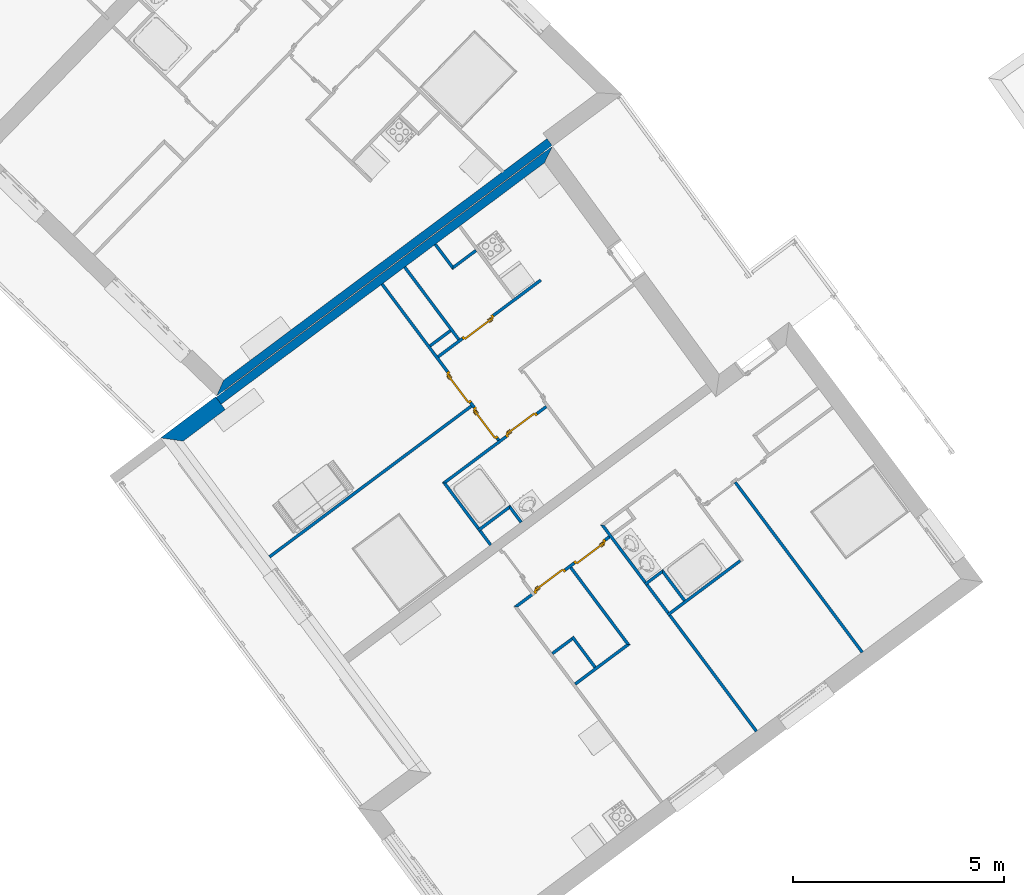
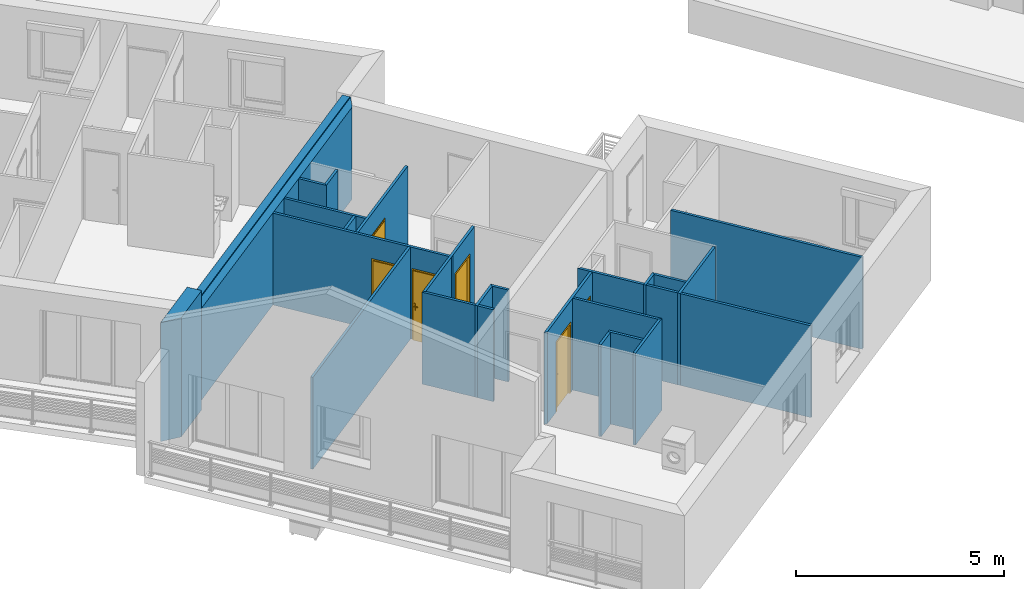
# One storey, part 6 of 121: 24 walls, 6 doors, 6 openings.
"""IFC2X3 building model written with IfcOpenShell, lengths in metres."""

from ifc_helpers import new_model, entity, si_unit, converted_unit, derived_unit, money_unit, direction, frame, origin_with_axes, origin_2d_with_axis, place, context, subcontext, project, spatial, polyline, rectangle, outline, extrude, faceted_brep, source, transform, mapped, material, layer, layer_set, layer_usage, type_object, element, fill, save


model = new_model("IFC2X3")

# Units and contexts
model_context = context("Model", 3, precision=1e-05, world=origin_with_axes(), true_north=direction((0.0, 1.0)))
body_context = subcontext(model_context, "Body", "Model", "MODEL_VIEW")
ifc_project = project(units=[si_unit("LENGTHUNIT", "METRE"), si_unit("AREAUNIT", "SQUARE_METRE"), si_unit("VOLUMEUNIT", "CUBIC_METRE"), converted_unit("PLANEANGLEUNIT", "DEGREE", entity("IfcPlaneAngleMeasure", 0.0174532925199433), si_unit("PLANEANGLEUNIT", "RADIAN"), dimensions=[0, 0, 0, 0, 0, 0, 0]), money_unit("CHF"), converted_unit("TIMEUNIT", "Year", entity("IfcTimeMeasure", 31557600.0), si_unit("TIMEUNIT", "SECOND"), dimensions=[0, 0, 1, 0, 0, 0, 0]), si_unit("MASSUNIT", "GRAM", prefix="KILO"), si_unit("THERMODYNAMICTEMPERATUREUNIT", "DEGREE_CELSIUS"), si_unit("LUMINOUSINTENSITYUNIT", "LUMEN"), si_unit("ENERGYUNIT", "JOULE", prefix="MEGA"), derived_unit("THERMALCONDUCTANCEUNIT", [(si_unit("POWERUNIT", "WATT"), 1), (si_unit("LENGTHUNIT", "METRE"), -1), (si_unit("THERMODYNAMICTEMPERATUREUNIT", "KELVIN"), -1)]), derived_unit("SPECIFICHEATCAPACITYUNIT", [(si_unit("ENERGYUNIT", "JOULE"), 1), (si_unit("MASSUNIT", "GRAM", prefix="KILO"), -1), (si_unit("THERMODYNAMICTEMPERATUREUNIT", "KELVIN"), -1)]), derived_unit("MASSDENSITYUNIT", [(si_unit("MASSUNIT", "GRAM", prefix="KILO"), 1), (si_unit("VOLUMEUNIT", "CUBIC_METRE"), -1)])], contexts=[model_context])

# Site, building, storey
site_placement = place(None, origin_with_axes())
site = spatial("IfcSite", under=ifc_project, at=site_placement, Name="Site", CompositionType="ELEMENT")
building_placement = place(site_placement, origin_with_axes())
building = spatial("IfcBuilding", under=site, at=building_placement, Name="Bâtiment", CompositionType="ELEMENT")
storey_placement = place(building_placement, frame((0.0, 0.0, 2.75), z_axis=(0.0, 0.0, 1.0), x_axis=(1.0, 0.0, 0.0)))
storey = spatial("IfcBuildingStorey", under=building, at=storey_placement, Name="Etage 1", CompositionType="ELEMENT", Elevation=2.75)

# Wall, opening, door
ifc_material_1 = material(Name="Hachure solide 268963992")
ifc_layer_1 = layer(ifc_material_1, 0.07, ventilated="UNKNOWN")
ifc_layer_set_1 = layer_set([ifc_layer_1], Name="Cloison 70 0826278243")
ifc_layer_usage_1 = layer_usage(ifc_layer_set_1, "AXIS2", "NEGATIVE", 0.0)
wall_type_1 = type_object("IfcWallType", Name="Cloison 70 0826278243 70", PredefinedType="NOTDEFINED")
wall_1_placement = place(storey_placement, frame((9537.252719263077, -1072.918663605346, 57.7), z_axis=(0.0, 0.0, 1.0), x_axis=(-0.8011628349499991, -0.5984464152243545, 0.0)))
wall_1 = element("IfcWallStandardCase", 1, at=wall_1_placement, inside=storey, type_object=wall_type_1, material=ifc_layer_usage_1, Name="Mur-149", context=body_context, shape_type="SweptSolid", body=[
    extrude(outline(polyline([(0.0, -0.07000000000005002), (3.027910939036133, -0.07000000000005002), (3.027910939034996, 0.0), (0.0, 0.0), (0.0, -0.07000000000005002)])), origin_with_axes(), (0.0, 0.0, 1.0), 2.7),
])
opening_1_placement = place(wall_1_placement, frame((1.855514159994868, 0.0, 0.0), z_axis=(0.0, 0.0, 1.0), x_axis=(1.0, 0.0, 0.0)))
opening_1 = element("IfcOpeningElement", 2, at=opening_1_placement, cuts=wall_1, Name="Por-309", context=body_context, shape_type="SweptSolid", body=[
    extrude(rectangle(XDim=0.9099999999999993, YDim=2.079999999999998, at=origin_2d_with_axis()), frame((0.0, -0.06999999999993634, 1.039999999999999), z_axis=(0.0, 1.0, 0.0), x_axis=(1.0, 0.0, 0.0)), (0.0, 0.0, 1.0), 0.14),
])
door_style = type_object("IfcDoorStyle", Name="Porte_1v", ConstructionType="NOTDEFINED", OperationType="NOTDEFINED", ParameterTakesPrecedence=False, Sizeable=False)
shared_shape_1 = source(origin_with_axes(), body_context, "Body", "Brep", [
    faceted_brep([(0.455, 0.0, 0.0), (0.415, 0.0, 0.0), (0.415, 0.0, 2.04), (-0.415, 0.0, 2.04), (-0.415, 0.0, 0.0), (-0.455, 0.0, 0.0), (-0.455, 0.0, 2.08), (0.455, 0.0, 2.08), (0.455, -0.07, 0.0), (0.4, -0.07, 0.0), (0.4, -0.015, 0.0), (0.415, -0.015, 0.0), (0.415, -0.015, 2.04), (-0.415, -0.015, 2.04), (-0.415, -0.015, 0.0), (-0.4, -0.015, 0.0), (-0.4, -0.07, 0.0), (-0.455, -0.07, 0.0), (-0.455, -0.07, 2.08), (0.455, -0.07, 2.08), (-0.4, -0.07, 2.025), (0.4, -0.07, 2.025), (0.4, -0.015, 2.025), (-0.4, -0.015, 2.025)], [[[0, 1, 2, 3, 4, 5, 6, 7]], [[0, 8, 9, 10, 11, 1]], [[1, 11, 12, 2]], [[2, 12, 13, 3]], [[3, 13, 14, 4]], [[5, 4, 14, 15, 16, 17]], [[18, 6, 5, 17]], [[19, 7, 6, 18]], [[8, 0, 7, 19]], [[9, 8, 19, 18, 17, 16, 20, 21]], [[10, 9, 21, 22]], [[11, 10, 22, 23, 15, 14, 13, 12]], [[23, 20, 16, 15]], [[22, 21, 20, 23]]]),
    faceted_brep([(-0.35, -0.015, 0.9), (-0.39, -0.015, 0.9), (-0.39, -0.015, 1.1), (-0.35, -0.015, 1.1), (-0.35, -0.025, 0.9), (-0.39, -0.025, 0.9), (-0.39, -0.025, 1.1), (-0.35, -0.025, 1.1)], [[[0, 1, 2, 3]], [[1, 0, 4, 5]], [[2, 1, 5, 6]], [[3, 2, 6, 7]], [[0, 3, 7, 4]], [[5, 4, 7, 6]]]),
    faceted_brep([(-0.28, -0.025, 1.0), (-0.38, -0.025, 1.0), (-0.38, -0.025, 1.02), (-0.28, -0.025, 1.02), (-0.28, -0.045, 1.0), (-0.38, -0.045, 1.0), (-0.38, -0.045, 1.02), (-0.28, -0.045, 1.02)], [[[0, 1, 2, 3]], [[1, 0, 4, 5]], [[2, 1, 5, 6]], [[3, 2, 6, 7]], [[0, 3, 7, 4]], [[5, 4, 7, 6]]]),
    faceted_brep([(-0.35, 0.035, 0.9), (-0.39, 0.035, 0.9), (-0.39, 0.035, 1.1), (-0.35, 0.035, 1.1), (-0.35, 0.025, 0.9), (-0.39, 0.025, 0.9), (-0.39, 0.025, 1.1), (-0.35, 0.025, 1.1)], [[[0, 1, 2, 3]], [[1, 0, 4, 5]], [[2, 1, 5, 6]], [[3, 2, 6, 7]], [[0, 3, 7, 4]], [[5, 4, 7, 6]]]),
    faceted_brep([(-0.28, 0.05500000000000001, 1.0), (-0.38, 0.05500000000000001, 1.0), (-0.38, 0.05500000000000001, 1.02), (-0.28, 0.05500000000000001, 1.02), (-0.28, 0.035, 1.0), (-0.38, 0.035, 1.0), (-0.38, 0.035, 1.02), (-0.28, 0.035, 1.02)], [[[0, 1, 2, 3]], [[1, 0, 4, 5]], [[2, 1, 5, 6]], [[3, 2, 6, 7]], [[0, 3, 7, 4]], [[5, 4, 7, 6]]]),
    faceted_brep([(-0.415, 0.025, 0.0), (0.415, 0.025, 0.0), (0.415, -0.015, 0.0), (-0.415, -0.015, 0.0), (-0.415, 0.025, 2.04), (0.415, 0.025, 2.04), (0.415, -0.015, 2.04), (-0.415, -0.015, 2.04)], [[[0, 1, 2, 3]], [[0, 4, 5, 1]], [[1, 5, 6, 2]], [[3, 2, 6, 7]], [[4, 0, 3, 7]], [[5, 4, 7, 6]]]),
])
door_1_placement = place(opening_1_placement, frame((-0.4150000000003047, 0.0, 0.0), z_axis=(0.0, 0.0, 1.0), x_axis=(1.0, 0.0, 0.0)))
door_1 = element("IfcDoor", 3, at=door_1_placement, inside=storey, type_object=door_style, Name="Por-309", OverallHeight=2.04, OverallWidth=0.83, context=body_context, shape_type="MappedRepresentation", body=[
    mapped(shared_shape_1, transform((0.4149999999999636, 0.0, 0.0))),
])
fill(opening_1, door_1)

# Wall
ifc_layer_usage_2 = layer_usage(ifc_layer_set_1, "AXIS2", "NEGATIVE", 0.0)
wall_2_placement = place(storey_placement, frame((9534.76554951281, -1072.023628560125, 57.7), z_axis=(0.0, 0.0, 1.0), x_axis=(0.5984471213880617, -0.8011623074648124, 0.0)))
element("IfcWallStandardCase", 4, at=wall_2_placement, inside=storey, type_object=wall_type_1, material=ifc_layer_usage_2, Name="Mur-149", context=body_context, shape_type="SweptSolid", body=[
    extrude(outline(polyline([(0.0, -0.06999999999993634), (0.7279079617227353, -0.07000000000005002), (0.6579079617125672, 0.0), (0.0, 0.0), (0.0, -0.06999999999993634)])), origin_with_axes(), (0.0, 0.0, 1.0), 2.7),
])

# Wall, opening, door
ifc_layer_usage_3 = layer_usage(ifc_layer_set_1, "AXIS2", "NEGATIVE", 0.0)
wall_3_placement = place(storey_placement, frame((9537.439129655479, -1075.868428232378, 57.7), z_axis=(0.0, 0.0, 1.0), x_axis=(-0.8011628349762, -0.5984464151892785, 0.0)))
wall_3 = element("IfcWallStandardCase", 5, at=wall_3_placement, inside=storey, type_object=wall_type_1, material=ifc_layer_usage_3, Name="Mur-149", context=body_context, shape_type="SweptSolid", body=[
    extrude(outline(polyline([(0.07000000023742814, -0.06999999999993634), (3.116339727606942, -0.06999999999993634), (3.046339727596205, 0.0), (0.07000000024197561, 0.0), (0.07000000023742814, -0.06999999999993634)])), origin_with_axes(), (0.0, 0.0, 1.0), 2.7),
])
opening_2_placement = place(wall_3_placement, frame((0.8014247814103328, 0.0, 0.0), z_axis=(0.0, 0.0, 1.0), x_axis=(1.0, 0.0, 0.0)))
opening_2 = element("IfcOpeningElement", 6, at=opening_2_placement, cuts=wall_3, Name="Por-311", context=body_context, shape_type="SweptSolid", body=[
    extrude(rectangle(XDim=0.9099999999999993, YDim=2.079999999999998, at=origin_2d_with_axis()), frame((0.0, 0.06999999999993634, 1.039999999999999), z_axis=(0.0, -1.0, 0.0), x_axis=(-1.0, 0.0, 0.0)), (0.0, 0.0, 1.0), 0.14),
])
door_2_placement = place(opening_2_placement, frame((0.4149999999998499, 0.0, 0.0), z_axis=(0.0, 0.0, 1.0), x_axis=(-1.0, 0.0, 0.0)))
door_2 = element("IfcDoor", 7, at=door_2_placement, inside=storey, type_object=door_style, Name="Por-311", OverallHeight=2.04, OverallWidth=0.83, context=body_context, shape_type="MappedRepresentation", body=[
    mapped(shared_shape_1, transform((0.4149999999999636, 0.07000000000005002, 0.0))),
])
fill(opening_2, door_2)

# Wall, openings, doors
ifc_layer_usage_4 = layer_usage(ifc_layer_set_1, "AXIS2", "NEGATIVE", 0.0)
wall_4_placement = place(storey_placement, frame((9533.50699201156, -1072.963736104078, 57.7), z_axis=(0.0, 0.0, 1.0), x_axis=(0.5984464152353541, -0.8011628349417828, 0.0)))
wall_4 = element("IfcWallStandardCase", 8, at=wall_4_placement, inside=storey, type_object=wall_type_1, material=ifc_layer_usage_4, Name="Mur-149", context=body_context, shape_type="SweptSolid", body=[
    extrude(outline(polyline([(0.0, -0.06999999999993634), (4.682283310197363, -0.06999999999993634), (4.682283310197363, 0.0), (0.0, 0.0), (0.0, -0.06999999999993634)])), origin_with_axes(), (0.0, 0.0, 1.0), 2.7),
])
opening_3_placement = place(wall_4_placement, frame((3.043617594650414, 0.0, 0.0), z_axis=(0.0, 0.0, 1.0), x_axis=(1.0, 0.0, 0.0)))
opening_3 = element("IfcOpeningElement", 9, at=opening_3_placement, cuts=wall_4, Name="Por-310", context=body_context, shape_type="SweptSolid", body=[
    extrude(rectangle(XDim=0.9099999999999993, YDim=2.079999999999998, at=origin_2d_with_axis()), frame((0.0, 0.07000000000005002, 1.039999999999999), z_axis=(0.0, 1.0, 0.0), x_axis=(1.0, 0.0, 0.0)), (0.0, 0.0, -1.0), 0.14),
])
opening_4_placement = place(wall_4_placement, frame((4.093552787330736, 0.0, 0.0), z_axis=(0.0, 0.0, 1.0), x_axis=(1.0, 0.0, 0.0)))
opening_4 = element("IfcOpeningElement", 10, at=opening_4_placement, cuts=wall_4, Name="Por-310", context=body_context, shape_type="SweptSolid", body=[
    extrude(rectangle(XDim=0.9099999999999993, YDim=2.079999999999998, at=origin_2d_with_axis()), frame((0.0, 0.07000000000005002, 1.039999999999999), z_axis=(0.0, 1.0, 0.0), x_axis=(1.0, 0.0, 0.0)), (0.0, 0.0, -1.0), 0.14),
])
shared_shape_2 = source(origin_with_axes(), body_context, "Body", "Brep", [
    faceted_brep([(-0.455, 0.0, 0.0), (-0.455, 0.0, 2.08), (0.455, 0.0, 2.08), (0.455, 0.0, 0.0), (0.415, 0.0, 0.0), (0.415, 0.0, 2.04), (-0.415, 0.0, 2.04), (-0.415, 0.0, 0.0), (-0.455, -0.07, 0.0), (-0.455, -0.07, 2.08), (0.455, -0.07, 2.08), (0.455, -0.07, 0.0), (0.4, -0.07, 0.0), (0.4, -0.015, 0.0), (0.415, -0.015, 0.0), (0.415, -0.015, 2.04), (-0.415, -0.015, 2.04), (-0.415, -0.015, 0.0), (-0.4, -0.015, 0.0), (-0.4, -0.07, 0.0), (-0.4, -0.07, 2.025), (0.4, -0.07, 2.025), (0.4, -0.015, 2.025), (-0.4, -0.015, 2.025)], [[[0, 1, 2, 3, 4, 5, 6, 7]], [[8, 9, 1, 0]], [[9, 10, 2, 1]], [[10, 11, 3, 2]], [[3, 11, 12, 13, 14, 4]], [[5, 4, 14, 15]], [[6, 5, 15, 16]], [[7, 6, 16, 17]], [[0, 7, 17, 18, 19, 8]], [[19, 20, 21, 12, 11, 10, 9, 8]], [[22, 13, 12, 21]], [[17, 16, 15, 14, 13, 22, 23, 18]], [[18, 23, 20, 19]], [[23, 22, 21, 20]]]),
    faceted_brep([(0.35, -0.015, 0.9), (0.35, -0.015, 1.1), (0.39, -0.015, 1.1), (0.39, -0.015, 0.9), (0.35, -0.025, 0.9), (0.35, -0.025, 1.1), (0.39, -0.025, 1.1), (0.39, -0.025, 0.9)], [[[0, 1, 2, 3]], [[0, 4, 5, 1]], [[1, 5, 6, 2]], [[2, 6, 7, 3]], [[3, 7, 4, 0]], [[7, 6, 5, 4]]]),
    faceted_brep([(0.28, -0.025, 1.0), (0.28, -0.025, 1.02), (0.38, -0.025, 1.02), (0.38, -0.025, 1.0), (0.28, -0.045, 1.0), (0.28, -0.045, 1.02), (0.38, -0.045, 1.02), (0.38, -0.045, 1.0)], [[[0, 1, 2, 3]], [[0, 4, 5, 1]], [[1, 5, 6, 2]], [[2, 6, 7, 3]], [[3, 7, 4, 0]], [[7, 6, 5, 4]]]),
    faceted_brep([(0.35, 0.035, 0.9), (0.35, 0.035, 1.1), (0.39, 0.035, 1.1), (0.39, 0.035, 0.9), (0.35, 0.025, 0.9), (0.35, 0.025, 1.1), (0.39, 0.025, 1.1), (0.39, 0.025, 0.9)], [[[0, 1, 2, 3]], [[0, 4, 5, 1]], [[1, 5, 6, 2]], [[2, 6, 7, 3]], [[3, 7, 4, 0]], [[7, 6, 5, 4]]]),
    faceted_brep([(0.28, 0.05500000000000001, 1.0), (0.28, 0.05500000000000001, 1.02), (0.38, 0.05500000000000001, 1.02), (0.38, 0.05500000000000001, 1.0), (0.28, 0.035, 1.0), (0.28, 0.035, 1.02), (0.38, 0.035, 1.02), (0.38, 0.035, 1.0)], [[[0, 1, 2, 3]], [[0, 4, 5, 1]], [[1, 5, 6, 2]], [[2, 6, 7, 3]], [[3, 7, 4, 0]], [[7, 6, 5, 4]]]),
    faceted_brep([(0.415, 0.025, 0.0), (0.415, -0.015, 0.0), (-0.415, -0.015, 0.0), (-0.415, 0.025, 0.0), (0.415, 0.025, 2.04), (0.415, -0.015, 2.04), (-0.415, -0.015, 2.04), (-0.415, 0.025, 2.04)], [[[0, 1, 2, 3]], [[4, 5, 1, 0]], [[1, 5, 6, 2]], [[3, 2, 6, 7]], [[0, 3, 7, 4]], [[7, 6, 5, 4]]]),
])
door_3_placement = place(opening_4_placement, frame((0.4150000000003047, 0.0, 0.0), z_axis=(0.0, 0.0, 1.0), x_axis=(-1.0, 0.0, 0.0)))
door_3 = element("IfcDoor", 11, at=door_3_placement, inside=storey, type_object=door_style, Name="Por-310", OverallHeight=2.04, OverallWidth=0.83, context=body_context, shape_type="MappedRepresentation", body=[
    mapped(shared_shape_2, transform((0.4149999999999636, 0.06999999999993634, 0.0))),
])
fill(opening_4, door_3)
door_4_placement = place(opening_3_placement, frame((0.4150000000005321, 0.0, 0.0), z_axis=(0.0, 0.0, 1.0), x_axis=(-1.0, 0.0, 0.0)))
door_4 = element("IfcDoor", 12, at=door_4_placement, inside=storey, type_object=door_style, Name="Por-310", OverallHeight=2.04, OverallWidth=0.83, context=body_context, shape_type="MappedRepresentation", body=[
    mapped(shared_shape_2, transform((0.4149999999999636, 0.07000000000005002, 0.0))),
])
fill(opening_3, door_4)

# Walls
ifc_layer_usage_5 = layer_usage(ifc_layer_set_1, "AXIS2", "NEGATIVE", 0.0)
wall_5_placement = place(storey_placement, frame((9535.777268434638, -1072.176466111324, 57.7), z_axis=(0.0, 0.0, 1.0), x_axis=(-0.8011623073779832, -0.5984471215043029, 0.0)))
element("IfcWallStandardCase", 13, at=wall_5_placement, inside=storey, type_object=wall_type_1, material=ifc_layer_usage_5, Name="Mur-149", context=body_context, shape_type="SweptSolid", body=[
    extrude(outline(polyline([(0.06999993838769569, -0.07000000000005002), (0.719085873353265, -0.07000000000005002), (0.7890858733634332, 0.0), (0.07000000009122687, 0.0), (0.06999993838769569, -0.07000000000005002)])), origin_with_axes(), (0.0, 0.0, 1.0), 2.7),
])
ifc_layer_usage_6 = layer_usage(ifc_layer_set_1, "AXIS2", "NEGATIVE", 0.0)
wall_6_placement = place(storey_placement, frame((9535.1721457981, -1074.07337484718, 57.7), z_axis=(0.0, 0.0, 1.0), x_axis=(-0.8011628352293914, -0.5984464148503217, 0.0)))
element("IfcWallStandardCase", 14, at=wall_6_placement, inside=storey, type_object=wall_type_1, material=ifc_layer_usage_6, Name="Mur-149", context=body_context, shape_type="SweptSolid", body=[
    extrude(outline(polyline([(0.07000000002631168, -0.07000000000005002), (0.6700000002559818, -0.07000000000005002), (0.6700000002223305, 0.0), (0.07000000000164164, 0.0), (0.07000000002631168, -0.07000000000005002)])), origin_with_axes(), (0.0, 0.0, 1.0), 2.7),
])
ifc_layer_usage_7 = layer_usage(ifc_layer_set_1, "AXIS2", "NEGATIVE", 0.0)
wall_7_placement = place(storey_placement, frame((9534.998515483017, -1077.691499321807, 57.7), z_axis=(0.0, 0.0, 1.0), x_axis=(0.5984464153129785, -0.8011628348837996, 0.0)))
element("IfcWallStandardCase", 15, at=wall_7_placement, inside=storey, type_object=wall_type_1, material=ifc_layer_usage_7, Name="Mur-149", context=body_context, shape_type="SweptSolid", body=[
    extrude(outline(polyline([(-0.07000000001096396, -0.06999999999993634), (1.799694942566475, -0.06999999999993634), (1.799694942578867, 0.0), (0.0, 0.0), (-0.07000000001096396, -0.06999999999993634)])), origin_with_axes(), (0.0, 0.0, 1.0), 2.7),
])
ifc_layer_usage_8 = layer_usage(ifc_layer_set_1, "AXIS2", "NEGATIVE", 0.0)
wall_8_placement = place(storey_placement, frame((9536.740501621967, -1078.636637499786, 57.7), z_axis=(0.0, 0.0, 1.0), x_axis=(-0.5984464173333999, 0.8011628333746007, 0.0)))
element("IfcWallStandardCase", 16, at=wall_8_placement, inside=storey, type_object=wall_type_1, material=ifc_layer_usage_8, Name="Mur-149", context=body_context, shape_type="SweptSolid", body=[
    extrude(outline(polyline([(-5.088622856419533e-10, -0.06999999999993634), (0.4870133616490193, -0.07000000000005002), (0.417013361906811, 0.0), (-3.199147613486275e-10, 0.0), (-5.088622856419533e-10, -0.06999999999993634)])), origin_with_axes(), (0.0, 0.0, 1.0), 2.7),
])
ifc_layer_usage_9 = layer_usage(ifc_layer_set_1, "AXIS2", "NEGATIVE", 0.0)
wall_9_placement = place(storey_placement, frame((9536.490941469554, -1078.302541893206, 57.7), z_axis=(0.0, 0.0, 1.0), x_axis=(-0.8011628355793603, -0.5984464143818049, 0.0)))
element("IfcWallStandardCase", 17, at=wall_9_placement, inside=storey, type_object=wall_type_1, material=ifc_layer_usage_9, Name="Mur-149", context=body_context, shape_type="SweptSolid", body=[
    extrude(outline(polyline([(-0.06999999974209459, -0.07000000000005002), (0.9000166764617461, -0.07000000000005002), (0.9000166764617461, 0.0), (0.0, 0.0), (-0.06999999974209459, -0.07000000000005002)])), origin_with_axes(), (0.0, 0.0, 1.0), 2.7),
])
ifc_layer_usage_10 = layer_usage(ifc_layer_set_1, "AXIS2", "NEGATIVE", 0.0)
wall_10_placement = place(storey_placement, frame((9534.04377111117, -1072.562777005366, 57.7), z_axis=(0.0, 0.0, 1.0), x_axis=(0.5984464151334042, -0.8011628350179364, 0.0)))
element("IfcWallStandardCase", 18, at=wall_10_placement, inside=storey, type_object=wall_type_1, material=ifc_layer_usage_10, Name="Mur-149", context=body_context, shape_type="SweptSolid", body=[
    extrude(outline(polyline([(0.0, -0.06999999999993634), (2.135506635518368, -0.07000000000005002), (2.13550663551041, 0.0), (0.0, 0.0), (0.0, -0.06999999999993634)])), origin_with_axes(), (0.0, 0.0, 1.0), 2.7),
])

# Wall, openings, doors
ifc_layer_usage_11 = layer_usage(ifc_layer_set_1, "AXIS2", "NEGATIVE", 0.0)
wall_11_placement = place(storey_placement, frame((9536.645699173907, -1080.567401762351, 57.7), z_axis=(0.0, 0.0, 1.0), x_axis=(0.8011628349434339, 0.5984464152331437, 0.0)))
wall_11 = element("IfcWallStandardCase", 19, at=wall_11_placement, inside=storey, type_object=wall_type_1, material=ifc_layer_usage_11, Name="Mur-149", context=body_context, shape_type="SweptSolid", body=[
    extrude(outline(polyline([(-9.023324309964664e-10, -0.07000000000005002), (2.729999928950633, -0.07000000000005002), (2.729999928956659, 0.0), (-0.06999999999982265, 0.0), (-9.023324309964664e-10, -0.07000000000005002)])), origin_with_axes(), (0.0, 0.0, 1.0), 2.7),
])
opening_5_placement = place(wall_11_placement, frame((0.9704286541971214, 0.0, 0.0), z_axis=(0.0, 0.0, 1.0), x_axis=(1.0, 0.0, 0.0)))
opening_5 = element("IfcOpeningElement", 20, at=opening_5_placement, cuts=wall_11, Name="Por-308", context=body_context, shape_type="SweptSolid", body=[
    extrude(rectangle(XDim=0.9099999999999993, YDim=2.079999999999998, at=origin_2d_with_axis()), frame((0.0, -0.07000000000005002, 1.039999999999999), z_axis=(0.0, 1.0, 0.0), x_axis=(1.0, 0.0, 0.0)), (0.0, 0.0, 1.0), 0.14),
])
opening_6_placement = place(wall_11_placement, frame((2.150722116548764, 0.0, 0.0), z_axis=(0.0, 0.0, 1.0), x_axis=(1.0, 0.0, 0.0)))
opening_6 = element("IfcOpeningElement", 21, at=opening_6_placement, cuts=wall_11, Name="Por-308", context=body_context, shape_type="SweptSolid", body=[
    extrude(rectangle(XDim=0.9099999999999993, YDim=2.079999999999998, at=origin_2d_with_axis()), frame((0.0, 0.07000000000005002, 1.039999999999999), z_axis=(0.0, -1.0, 0.0), x_axis=(-1.0, 0.0, 0.0)), (0.0, 0.0, 1.0), 0.14),
])
door_5_placement = place(opening_5_placement, frame((-0.4149999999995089, 0.0, 0.0), z_axis=(0.0, 0.0, 1.0), x_axis=(1.0, 0.0, 0.0)))
door_5 = element("IfcDoor", 22, at=door_5_placement, inside=storey, type_object=door_style, Name="Por-308", OverallHeight=2.04, OverallWidth=0.83, context=body_context, shape_type="MappedRepresentation", body=[
    mapped(shared_shape_1, transform((0.4149999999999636, 0.0, 0.0))),
])
fill(opening_5, door_5)
door_6_placement = place(opening_6_placement, frame((0.4149999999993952, 0.0, 0.0), z_axis=(0.0, 0.0, 1.0), x_axis=(-1.0, 0.0, 0.0)))
door_6 = element("IfcDoor", 23, at=door_6_placement, inside=storey, type_object=door_style, Name="Por-308", OverallHeight=2.04, OverallWidth=0.83, context=body_context, shape_type="MappedRepresentation", body=[
    mapped(shared_shape_1, transform((0.4149999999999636, 0.06999999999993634, 0.0))),
])
fill(opening_6, door_6)

# Walls
ifc_layer_usage_12 = layer_usage(ifc_layer_set_1, "AXIS2", "POSITIVE", 0.0)
wall_12_placement = place(storey_placement, frame((9537.871478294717, -1079.65177875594, 57.7), z_axis=(0.0, 0.0, 1.0), x_axis=(0.598446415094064, -0.8011628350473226, 0.0)))
element("IfcWallStandardCase", 24, at=wall_12_placement, inside=storey, type_object=wall_type_1, material=ifc_layer_usage_12, Name="Mur-149", context=body_context, shape_type="SweptSolid", body=[
    extrude(outline(polyline([(0.07000000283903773, 0.0), (2.305144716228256, 0.0), (2.375144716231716, 0.06999999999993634), (0.07000000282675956, 0.06999999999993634), (0.07000000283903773, 0.0)])), origin_with_axes(), (0.0, 0.0, 1.0), 2.7),
])
ifc_layer_usage_13 = layer_usage(ifc_layer_set_1, "AXIS2", "NEGATIVE", 0.0)
wall_13_placement = place(storey_placement, frame((9538.697378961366, -1078.635281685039, 57.7), z_axis=(0.0, 0.0, 1.0), x_axis=(0.5984464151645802, -0.8011628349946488, 0.0)))
element("IfcWallStandardCase", 25, at=wall_13_placement, inside=storey, type_object=wall_type_1, material=ifc_layer_usage_13, Name="Mur-149", context=body_context, shape_type="SweptSolid", body=[
    extrude(outline(polyline([(0.0, -0.06999999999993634), (6.119914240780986, -0.06999999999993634), (6.119914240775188, 0.0), (0.06999999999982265, 0.0), (0.0, -0.06999999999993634)])), origin_with_axes(), (0.0, 0.0, 1.0), 2.7),
])
ifc_layer_usage_14 = layer_usage(ifc_layer_set_1, "AXIS2", "NEGATIVE", 0.0)
wall_14_placement = place(storey_placement, frame((9538.04851770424, -1081.360789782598, 57.7), z_axis=(0.0, 0.0, 1.0), x_axis=(-0.8011628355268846, -0.5984464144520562, 0.0)))
element("IfcWallStandardCase", 26, at=wall_14_placement, inside=storey, type_object=wall_type_1, material=ifc_layer_usage_14, Name="Mur-149", context=body_context, shape_type="SweptSolid", body=[
    extrude(outline(polyline([(0.07000000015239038, -0.06999999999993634), (0.6490858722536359, -0.06999999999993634), (0.6490858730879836, 0.0), (0.07000000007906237, 0.0), (0.07000000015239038, -0.06999999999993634)])), origin_with_axes(), (0.0, 0.0, 1.0), 2.7),
])
ifc_layer_usage_15 = layer_usage(ifc_layer_set_1, "AXIS2", "POSITIVE", 0.0)
wall_15_placement = place(storey_placement, frame((9539.250983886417, -1081.498575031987, 57.7), z_axis=(0.0, 0.0, 1.0), x_axis=(-0.8011628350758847, -0.5984464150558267, 0.0)))
element("IfcWallStandardCase", 27, at=wall_15_placement, inside=storey, type_object=wall_type_1, material=ifc_layer_usage_15, Name="Mur-149", context=body_context, shape_type="SweptSolid", body=[
    extrude(outline(polyline([(0.0, 0.0), (1.530000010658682, 0.0), (1.530000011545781, 0.06999999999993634), (-0.07000000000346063, 0.06999999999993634), (0.0, 0.0)])), origin_with_axes(), (0.0, 0.0, 1.0), 2.7),
])
ifc_layer_usage_16 = layer_usage(ifc_layer_set_1, "AXIS2", "NEGATIVE", 0.0)
wall_16_placement = place(storey_placement, frame((9541.815128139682, -1077.592040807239, 57.7), z_axis=(0.0, 0.0, 1.0), x_axis=(0.598446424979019, -0.8011628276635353, 0.0)))
element("IfcWallStandardCase", 28, at=wall_16_placement, inside=storey, type_object=wall_type_1, material=ifc_layer_usage_16, Name="Mur-149", context=body_context, shape_type="SweptSolid", body=[
    extrude(outline(polyline([(0.06999999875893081, -0.06999999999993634), (5.089914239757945, -0.06999999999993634), (5.089914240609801, 0.0), (0.06999999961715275, 0.0), (0.06999999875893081, -0.06999999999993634)])), origin_with_axes(), (0.0, 0.0, 1.0), 2.7),
])
ifc_layer_usage_17 = layer_usage(ifc_layer_set_1, "AXIS2", "NEGATIVE", 0.0)
wall_17_placement = place(storey_placement, frame((9538.00662645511, -1081.304708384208, 57.7), z_axis=(0.0, 0.0, 1.0), x_axis=(0.59844641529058, -0.8011628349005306, 0.0)))
element("IfcWallStandardCase", 29, at=wall_17_placement, inside=storey, type_object=wall_type_1, material=ifc_layer_usage_17, Name="Mur-149", context=body_context, shape_type="SweptSolid", body=[
    extrude(outline(polyline([(0.0, -0.06999999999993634), (0.8999999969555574, -0.06999999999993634), (0.8999999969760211, 0.0), (0.0, 0.0), (0.0, -0.06999999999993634)])), origin_with_axes(), (0.0, 0.0, 1.0), 2.7),
])
ifc_layer_usage_18 = layer_usage(ifc_layer_set_1, "AXIS2", "NEGATIVE", 0.0)
wall_18_placement = place(storey_placement, frame((9535.667445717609, -1075.856017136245, 57.7), z_axis=(0.0, 0.0, 1.0), x_axis=(-0.8011628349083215, -0.59844641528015, 0.0)))
element("IfcWallStandardCase", 30, at=wall_18_placement, inside=storey, type_object=wall_type_1, material=ifc_layer_usage_18, Name="Mur-149", context=body_context, shape_type="SweptSolid", body=[
    extrude(outline(polyline([(0.0700000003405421, -0.06999999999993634), (6.027147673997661, -0.06999999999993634), (6.027147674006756, 0.0), (0.07000000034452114, 0.0), (0.0700000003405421, -0.06999999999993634)])), origin_with_axes(), (0.0, 0.0, 1.0), 2.7),
])
ifc_layer_usage_19 = layer_usage(ifc_layer_set_1, "AXIS2", "POSITIVE", 0.0)
wall_19_placement = place(storey_placement, frame((9539.715668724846, -1080.115474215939, 57.7), z_axis=(0.0, 0.0, 1.0), x_axis=(0.8011628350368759, 0.5984464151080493, 0.0)))
element("IfcWallStandardCase", 31, at=wall_19_placement, inside=storey, type_object=wall_type_1, material=ifc_layer_usage_19, Name="Mur-149", context=body_context, shape_type="SweptSolid", body=[
    extrude(outline(polyline([(0.0, 0.0), (0.487013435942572, 0.0), (0.5570134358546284, 0.06999999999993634), (0.0, 0.06999999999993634), (0.0, 0.0)])), origin_with_axes(), (0.0, 0.0, 1.0), 2.7),
])
ifc_layer_usage_20 = layer_usage(ifc_layer_set_1, "AXIS2", "NEGATIVE", 0.0)
wall_20_placement = place(storey_placement, frame((9540.212379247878, -1080.780439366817, 57.7), z_axis=(0.0, 0.0, 1.0), x_axis=(0.8011628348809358, 0.5984464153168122, 0.0)))
element("IfcWallStandardCase", 32, at=wall_20_placement, inside=storey, type_object=wall_type_1, material=ifc_layer_usage_20, Name="Mur-149", context=body_context, shape_type="SweptSolid", body=[
    extrude(outline(polyline([(0.0, -0.07000000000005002), (2.142148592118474, -0.07000000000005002), (2.142148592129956, 0.0), (0.0, 0.0), (0.0, -0.07000000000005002)])), origin_with_axes(), (0.0, 0.0, 1.0), 2.7),
])
ifc_layer_usage_21 = layer_usage(ifc_layer_set_1, "AXIS2", "POSITIVE", 0.0)
wall_21_placement = place(storey_placement, frame((9540.105845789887, -1079.824022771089, 57.7), z_axis=(0.0, 0.0, 1.0), x_axis=(0.5984464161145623, -0.8011628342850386, 0.0)))
element("IfcWallStandardCase", 33, at=wall_21_placement, inside=storey, type_object=wall_type_1, material=ifc_layer_usage_21, Name="Mur-149", context=body_context, shape_type="SweptSolid", body=[
    extrude(outline(polyline([(0.0, 0.0), (0.8299999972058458, 0.0), (0.8299999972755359, 0.06999999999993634), (-0.06999999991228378, 0.06999999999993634), (0.0, 0.0)])), origin_with_axes(), (0.0, 0.0, 1.0), 2.7),
])
ifc_material_2 = material(Name="Parpaing 312445824")
ifc_layer_2 = layer(ifc_material_2, 0.22, ventilated="UNKNOWN")
ifc_material_3 = material(Name="Isolant styromousse 301821074")
ifc_layer_3 = layer(ifc_material_3, 0.16, ventilated="UNKNOWN")
ifc_layer_set_2 = layer_set([ifc_layer_2, ifc_layer_3], Name="isol int 22+16 0836643197")
ifc_layer_usage_22 = layer_usage(ifc_layer_set_2, "AXIS2", "POSITIVE", 0.0)
wall_type_2 = type_object("IfcWallType", Name="isol int 22+16 0836643197 380", PredefinedType="NOTDEFINED")
wall_22_placement = place(storey_placement, frame((9529.54344702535, -1075.649793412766, 57.7), z_axis=(0.0, 0.0, 1.0), x_axis=(-0.801162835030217, -0.5984464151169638, 0.0)))
element("IfcWallStandardCase", 34, at=wall_22_placement, inside=storey, type_object=wall_type_2, material=ifc_layer_usage_22, Name="Mur-113", context=body_context, shape_type="SweptSolid", body=[
    extrude(outline(polyline([(0.0, 0.0), (1.624241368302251, 0.0), (1.244241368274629, 0.3800000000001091), (0.0, 0.3800000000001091), (0.0, 0.0)])), origin_with_axes(), (0.0, 0.0, 1.0), 3.499080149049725),
])
ifc_material_4 = material(Name="Parpaing 314940890")
ifc_layer_4 = layer(ifc_material_4, 0.2, ventilated="UNKNOWN")
ifc_layer_set_3 = layer_set([ifc_layer_4], Name="Beton  20")
ifc_layer_usage_23 = layer_usage(ifc_layer_set_3, "AXIS2", "POSITIVE", 0.0)
wall_type_3 = type_object("IfcWallType", Name="Beton  20 200", PredefinedType="NOTDEFINED")
wall_23_placement = place(storey_placement, frame((9537.378955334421, -1069.547263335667, 57.7), z_axis=(0.0, 0.0, 1.0), x_axis=(-0.8011628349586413, -0.5984464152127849, 0.0)))
element("IfcWallStandardCase", 35, at=wall_23_placement, inside=storey, type_object=wall_type_3, material=ifc_layer_usage_23, Name="Mur-105", context=body_context, shape_type="SweptSolid", body=[
    extrude(outline(polyline([(0.0, 0.0), (9.548450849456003, 0.0), (9.901146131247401, 0.2000000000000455), (0.0, 0.2000000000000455), (0.0, 0.0)])), origin_with_axes(), (0.0, 0.0, 1.0), 2.7),
])
ifc_layer_usage_24 = layer_usage(ifc_layer_set_3, "AXIS2", "POSITIVE", 0.0)
wall_24_placement = place(storey_placement, frame((9537.508642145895, -1069.724991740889, 57.7), z_axis=(0.0, 0.0, 1.0), x_axis=(-0.8011902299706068, -0.5984097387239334, 0.0)))
element("IfcWallStandardCase", 36, at=wall_24_placement, inside=storey, type_object=wall_type_3, material=ifc_layer_usage_24, Name="Mur-105", context=body_context, shape_type="SweptSolid", body=[
    extrude(outline(polyline([(0.0, 0.0), (9.927078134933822, 0.0), (9.927078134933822, 0.1999999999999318), (0.3820611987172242, 0.1999999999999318), (0.0, 0.0)])), origin_with_axes(), (0.0, 0.0, 1.0), 2.7),
])

save(model, "model.ifc")
